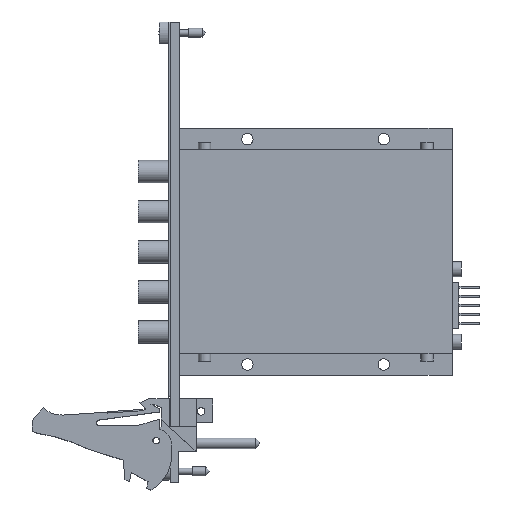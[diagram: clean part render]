
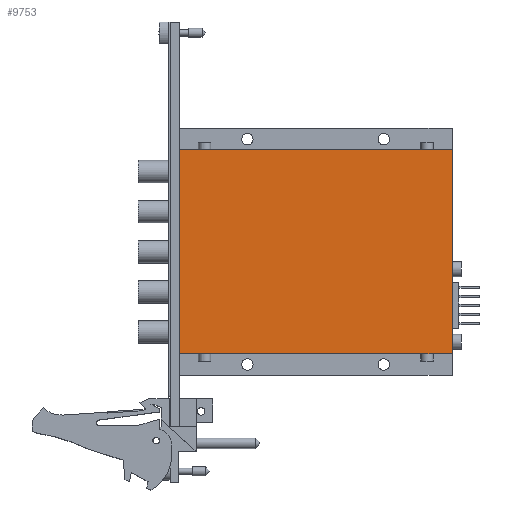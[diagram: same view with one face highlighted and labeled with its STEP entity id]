
A CAD part, top view. The second image highlights one B-rep face of the part: STEP entity #9753.
In plain terms, the highlighted planar face has unit normal (0, 0, 1).
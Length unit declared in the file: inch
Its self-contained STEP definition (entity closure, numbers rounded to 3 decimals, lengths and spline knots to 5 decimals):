
#219=DIRECTION('',(0.,1.,0.));
#220=VECTOR('',#219,2.24);
#221=CARTESIAN_POINT('',(-0.1,-3.0885,0.569));
#222=LINE('',#221,#220);
#3131=DIRECTION('',(-1.,0.,0.));
#3132=VECTOR('',#3131,3.);
#3133=CARTESIAN_POINT('',(2.9,-3.0885,0.569));
#3134=LINE('',#3133,#3132);
#3135=DIRECTION('',(-1.,0.,0.));
#3136=VECTOR('',#3135,3.);
#3137=CARTESIAN_POINT('',(2.9,-0.8485,0.569));
#3138=LINE('',#3137,#3136);
#3243=DIRECTION('',(0.,1.,0.));
#3244=VECTOR('',#3243,2.24);
#3245=CARTESIAN_POINT('',(2.9,-3.0885,0.569));
#3246=LINE('',#3245,#3244);
#4757=CARTESIAN_POINT('',(2.9,-3.0885,0.569));
#4758=VERTEX_POINT('',#4757);
#4759=CARTESIAN_POINT('',(2.9,-0.8485,0.569));
#4760=VERTEX_POINT('',#4759);
#5109=CARTESIAN_POINT('',(-0.1,-3.0885,0.569));
#5110=VERTEX_POINT('',#5109);
#5111=CARTESIAN_POINT('',(-0.1,-0.8485,0.569));
#5112=VERTEX_POINT('',#5111);
#9740=CARTESIAN_POINT('',(2.9,-3.0885,0.569));
#9741=DIRECTION('',(0.,0.,1.));
#9742=DIRECTION('',(0.,1.,0.));
#9743=AXIS2_PLACEMENT_3D('',#9740,#9741,#9742);
#9744=PLANE('',#9743);
#9745=ORIENTED_EDGE('',*,*,#5481,.T.);
#9747=ORIENTED_EDGE('',*,*,#9746,.F.);
#9749=ORIENTED_EDGE('',*,*,#9748,.F.);
#9750=ORIENTED_EDGE('',*,*,#9719,.T.);
#9751=EDGE_LOOP('',(#9745,#9747,#9749,#9750));
#9752=FACE_OUTER_BOUND('',#9751,.F.);
#9753=ADVANCED_FACE('',(#9752),#9744,.T.);
#5481=EDGE_CURVE('',#5110,#5112,#222,.T.);
#9719=EDGE_CURVE('',#4758,#5110,#3134,.T.);
#9746=EDGE_CURVE('',#4760,#5112,#3138,.T.);
#9748=EDGE_CURVE('',#4758,#4760,#3246,.T.);
